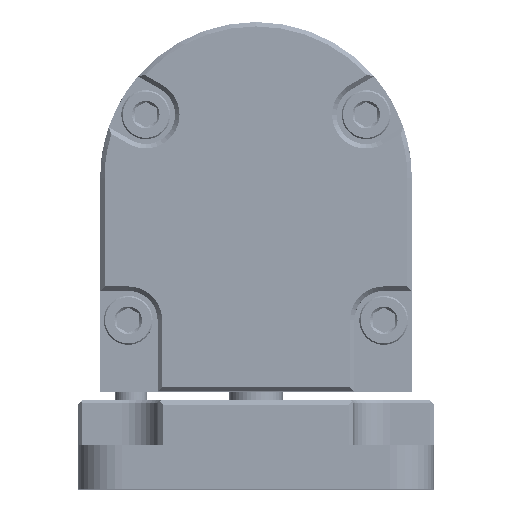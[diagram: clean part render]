
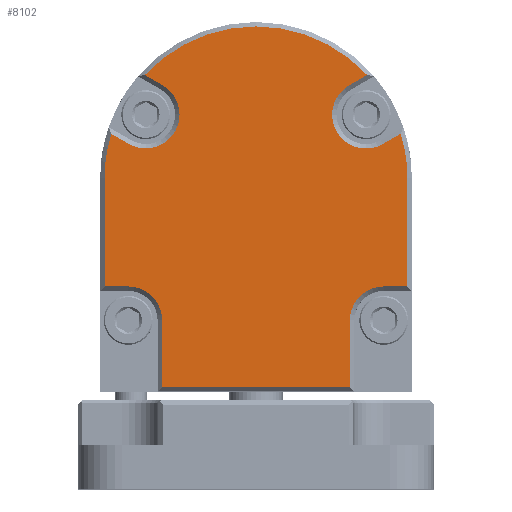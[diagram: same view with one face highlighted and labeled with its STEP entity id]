
A CAD part, top view. The second image highlights one B-rep face of the part: STEP entity #8102.
In plain terms, the highlighted planar face has unit normal (0, 0, 1).
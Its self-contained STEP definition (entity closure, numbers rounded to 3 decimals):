
#913=CIRCLE('',#8836,17.);
#914=CIRCLE('',#8839,17.);
#916=CIRCLE('',#8842,17.);
#918=CIRCLE('',#8846,3.8);
#920=CIRCLE('',#8852,3.8);
#922=CIRCLE('',#8857,3.8);
#924=CIRCLE('',#8862,3.8);
#1354=FACE_OUTER_BOUND('',#1860,.T.);
#1860=EDGE_LOOP('',(#6049,#6050,#6051,#6052,#6053,#6054,#6055,#6056,#6057,
#6058,#6059,#6060,#6061,#6062,#6063,#6064,#6065,#6066));
#2448=LINE('',#12332,#3006);
#2454=LINE('',#12354,#3012);
#2459=LINE('',#12388,#3017);
#2461=LINE('',#12396,#3019);
#2464=LINE('',#12402,#3022);
#2468=LINE('',#12409,#3026);
#2470=LINE('',#12417,#3028);
#2474=LINE('',#12424,#3032);
#2476=LINE('',#12432,#3034);
#2480=LINE('',#12439,#3038);
#2482=LINE('',#12447,#3040);
#3006=VECTOR('',#10087,10.);
#3012=VECTOR('',#10101,10.);
#3017=VECTOR('',#10120,10.);
#3019=VECTOR('',#10130,10.);
#3022=VECTOR('',#10135,10.);
#3026=VECTOR('',#10141,10.);
#3028=VECTOR('',#10151,10.);
#3032=VECTOR('',#10157,10.);
#3034=VECTOR('',#10167,10.);
#3038=VECTOR('',#10173,10.);
#3040=VECTOR('',#10183,10.);
#3557=VERTEX_POINT('',#12330);
#3558=VERTEX_POINT('',#12331);
#3562=VERTEX_POINT('',#12341);
#3565=VERTEX_POINT('',#12351);
#3566=VERTEX_POINT('',#12353);
#3567=VERTEX_POINT('',#12357);
#3568=VERTEX_POINT('',#12358);
#3571=VERTEX_POINT('',#12372);
#3572=VERTEX_POINT('',#12373);
#3576=VERTEX_POINT('',#12386);
#3578=VERTEX_POINT('',#12391);
#3580=VERTEX_POINT('',#12401);
#3582=VERTEX_POINT('',#12407);
#3584=VERTEX_POINT('',#12412);
#3586=VERTEX_POINT('',#12422);
#3588=VERTEX_POINT('',#12427);
#3590=VERTEX_POINT('',#12437);
#3592=VERTEX_POINT('',#12442);
#4442=EDGE_CURVE('',#3557,#3558,#2448,.T.);
#4447=EDGE_CURVE('',#3558,#3562,#913,.T.);
#4451=EDGE_CURVE('',#3565,#3566,#2454,.T.);
#4453=EDGE_CURVE('',#3567,#3568,#914,.T.);
#4457=EDGE_CURVE('',#3571,#3572,#916,.T.);
#4463=EDGE_CURVE('',#3576,#3571,#2459,.T.);
#4465=EDGE_CURVE('',#3578,#3576,#918,.T.);
#4467=EDGE_CURVE('',#3568,#3578,#2461,.T.);
#4470=EDGE_CURVE('',#3572,#3580,#2464,.T.);
#4474=EDGE_CURVE('',#3582,#3565,#2468,.T.);
#4476=EDGE_CURVE('',#3584,#3582,#920,.T.);
#4478=EDGE_CURVE('',#3580,#3584,#2470,.T.);
#4482=EDGE_CURVE('',#3586,#3567,#2474,.T.);
#4484=EDGE_CURVE('',#3588,#3586,#922,.T.);
#4486=EDGE_CURVE('',#3562,#3588,#2476,.T.);
#4490=EDGE_CURVE('',#3590,#3557,#2480,.T.);
#4492=EDGE_CURVE('',#3592,#3590,#924,.T.);
#4494=EDGE_CURVE('',#3566,#3592,#2482,.T.);
#6049=ORIENTED_EDGE('',*,*,#4457,.F.);
#6050=ORIENTED_EDGE('',*,*,#4463,.F.);
#6051=ORIENTED_EDGE('',*,*,#4465,.F.);
#6052=ORIENTED_EDGE('',*,*,#4467,.F.);
#6053=ORIENTED_EDGE('',*,*,#4453,.F.);
#6054=ORIENTED_EDGE('',*,*,#4482,.F.);
#6055=ORIENTED_EDGE('',*,*,#4484,.F.);
#6056=ORIENTED_EDGE('',*,*,#4486,.F.);
#6057=ORIENTED_EDGE('',*,*,#4447,.F.);
#6058=ORIENTED_EDGE('',*,*,#4442,.F.);
#6059=ORIENTED_EDGE('',*,*,#4490,.F.);
#6060=ORIENTED_EDGE('',*,*,#4492,.F.);
#6061=ORIENTED_EDGE('',*,*,#4494,.F.);
#6062=ORIENTED_EDGE('',*,*,#4451,.F.);
#6063=ORIENTED_EDGE('',*,*,#4474,.F.);
#6064=ORIENTED_EDGE('',*,*,#4476,.F.);
#6065=ORIENTED_EDGE('',*,*,#4478,.F.);
#6066=ORIENTED_EDGE('',*,*,#4470,.F.);
#7885=PLANE('',#8877);
#8102=ADVANCED_FACE('',(#1354),#7885,.T.);
#8836=AXIS2_PLACEMENT_3D('',#12342,#10095,#10096);
#8839=AXIS2_PLACEMENT_3D('',#12359,#10105,#10106);
#8842=AXIS2_PLACEMENT_3D('',#12374,#10111,#10112);
#8846=AXIS2_PLACEMENT_3D('',#12393,#10124,#10125);
#8852=AXIS2_PLACEMENT_3D('',#12414,#10145,#10146);
#8857=AXIS2_PLACEMENT_3D('',#12429,#10161,#10162);
#8862=AXIS2_PLACEMENT_3D('',#12444,#10177,#10178);
#8877=AXIS2_PLACEMENT_3D('',#12485,#10223,#10224);
#10087=DIRECTION('',(0.,1.,0.));
#10095=DIRECTION('center_axis',(0.,0.,-1.));
#10096=DIRECTION('ref_axis',(-1.,0.,0.));
#10101=DIRECTION('',(-1.,0.,0.));
#10105=DIRECTION('center_axis',(0.,0.,-1.));
#10106=DIRECTION('ref_axis',(-1.,0.,0.));
#10111=DIRECTION('center_axis',(0.,0.,-1.));
#10112=DIRECTION('ref_axis',(1.,0.,0.));
#10120=DIRECTION('',(0.866,0.5,0.));
#10124=DIRECTION('center_axis',(0.,0.,1.));
#10125=DIRECTION('ref_axis',(-0.866,-0.5,0.));
#10130=DIRECTION('',(-0.866,-0.5,0.));
#10135=DIRECTION('',(0.,-1.,0.));
#10141=DIRECTION('',(0.,-1.,0.));
#10145=DIRECTION('center_axis',(0.,0.,1.));
#10146=DIRECTION('ref_axis',(-1.,0.,0.));
#10151=DIRECTION('',(-1.,0.,0.));
#10157=DIRECTION('',(-0.868,0.497,0.));
#10161=DIRECTION('center_axis',(0.,0.,1.));
#10162=DIRECTION('ref_axis',(0.868,-0.497,0.));
#10167=DIRECTION('',(0.868,-0.497,0.));
#10173=DIRECTION('',(-1.,0.,0.));
#10177=DIRECTION('center_axis',(0.,0.,1.));
#10178=DIRECTION('ref_axis',(1.,0.,0.));
#10183=DIRECTION('',(0.,1.,0.));
#10223=DIRECTION('center_axis',(0.,0.,1.));
#10224=DIRECTION('ref_axis',(1.,0.,0.));
#12330=CARTESIAN_POINT('',(-17.,22.8,20.));
#12331=CARTESIAN_POINT('',(-17.,35.,20.));
#12332=CARTESIAN_POINT('',(-17.,33.375,20.));
#12341=CARTESIAN_POINT('',(-16.265,39.945,20.));
#12342=CARTESIAN_POINT('Origin',(0.,35.,20.));
#12351=CARTESIAN_POINT('',(10.55,11.5,20.));
#12353=CARTESIAN_POINT('',(-10.55,11.5,20.));
#12354=CARTESIAN_POINT('',(-8.75,11.5,20.));
#12357=CARTESIAN_POINT('',(-12.485,46.538,20.));
#12358=CARTESIAN_POINT('',(12.477,46.546,20.));
#12359=CARTESIAN_POINT('Origin',(0.,35.,20.));
#12372=CARTESIAN_POINT('',(16.262,39.956,20.));
#12373=CARTESIAN_POINT('',(17.,35.,20.));
#12374=CARTESIAN_POINT('Origin',(0.,35.,20.));
#12386=CARTESIAN_POINT('',(14.251,38.795,20.));
#12388=CARTESIAN_POINT('',(8.654,35.564,20.));
#12391=CARTESIAN_POINT('',(10.451,45.377,20.));
#12393=CARTESIAN_POINT('Origin',(12.351,42.086,20.));
#12396=CARTESIAN_POINT('',(3.582,41.411,20.));
#12401=CARTESIAN_POINT('',(17.,22.8,20.));
#12402=CARTESIAN_POINT('',(17.,21.375,20.));
#12407=CARTESIAN_POINT('',(10.55,19.,20.));
#12409=CARTESIAN_POINT('',(10.55,21.375,20.));
#12412=CARTESIAN_POINT('',(14.35,22.8,20.));
#12414=CARTESIAN_POINT('Origin',(14.35,19.,20.));
#12417=CARTESIAN_POINT('',(7.175,22.8,20.));
#12422=CARTESIAN_POINT('',(-10.494,45.397,20.));
#12424=CARTESIAN_POINT('',(-4.864,42.169,20.));
#12427=CARTESIAN_POINT('',(-14.274,38.803,20.));
#12429=CARTESIAN_POINT('Origin',(-12.384,42.1,20.));
#12432=CARTESIAN_POINT('',(-7.381,34.852,20.));
#12437=CARTESIAN_POINT('',(-14.35,22.8,20.));
#12439=CARTESIAN_POINT('',(-8.75,22.8,20.));
#12442=CARTESIAN_POINT('',(-10.55,19.,20.));
#12444=CARTESIAN_POINT('Origin',(-14.35,19.,20.));
#12447=CARTESIAN_POINT('',(-10.55,25.375,20.));
#12485=CARTESIAN_POINT('Origin',(0.,31.75,20.));
